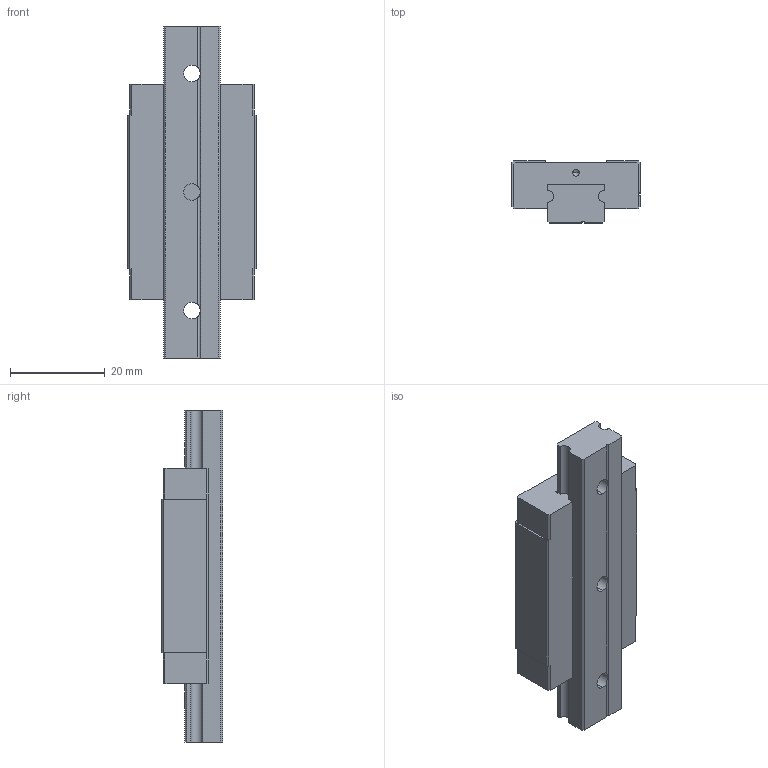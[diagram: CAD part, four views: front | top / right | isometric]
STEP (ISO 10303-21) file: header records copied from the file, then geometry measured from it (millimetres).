
FILE_DESCRIPTION (( 'STEP AP214' ), '1' );
FILE_NAME ('2.1062 Lineaarikelkka MGN12H.STEP', '2025-09-19T06:52:47', ( '' ), ( '' ), 'SwSTEP 2.0', 'SolidWorks 2025', '' );
FILE_SCHEMA (( 'AUTOMOTIVE_DESIGN' ));
Length unit declared in the file: millimetre
Products named in the file (1): 2.1062 Lineaarikelkka MGN12H
Bounding box: 27 x 13 x 70 mm (x, y, z)
Volume: 15220.8 mm3; surface area: 7901.5 mm2
Topology: 2 solids, 2 shells, 98 faces, 270 edges, 170 vertices
Faces by surface type: plane 53, cylinder 33, cone 12
Entity records: 4289 total; most frequent: CARTESIAN_POINT 677, DIRECTION 522, ORIENTED_EDGE 516, EDGE_CURVE 258, VECTOR 186, LINE 186, VERTEX_POINT 170, AXIS2_PLACEMENT_3D 168
